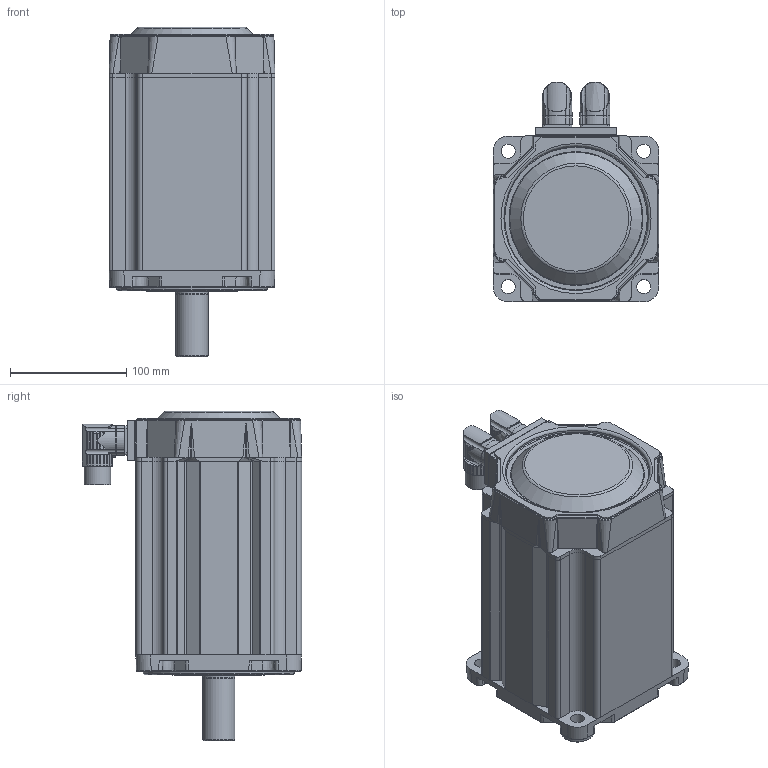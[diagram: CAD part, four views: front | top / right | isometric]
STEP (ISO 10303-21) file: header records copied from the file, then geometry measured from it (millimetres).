
FILE_DESCRIPTION((''),'2;1');
FILE_NAME('C:\CAD_work\Dummy_Modeling_Project_02-12-05\3D MODELS\MPP1424XXX_NPSN.stp','2005-12-20T17:26:09',('jevans'),(''),'Autodesk Inventor 10','Autodesk Inventor 10','');
FILE_SCHEMA(('AUTOMOTIVE_DESIGN { 1 0 10303 214 1 1 1 1 }'));
Length unit declared in the file: inch
Products named in the file (1): MPP142_MOTOR
Bounding box: 142.75 x 188.8 x 283.72 mm (x, y, z)
Volume: 3888890.9 mm3; surface area: 234159.4 mm2
Topology: 3 solids, 3 shells, 905 faces, 2284 edges, 1422 vertices
Faces by surface type: bspline 336, cylinder 287, plane 224, cone 35, torus 21, sphere 2
Full cylindrical faces by diameter (mm): 1.143 x17, 2.032 x6, 2.794 x2, 19.05 x1, 19.685 x1, 22.86 x1, 27.645 x1, 28.001 x1, 29.921 x1, 29.997 x1, 36.83 x1, 55.88 x1, 66.04 x1, 71.526 x1, 72.009 x1, 72.034 x2, 76.352 x1, 80.95 x1, 124.46 x1, 129.997 x1
Entity records: 37268 total; most frequent: CARTESIAN_POINT 17804, ORIENTED_EDGE 4334, DIRECTION 3475, EDGE_CURVE 2167, VERTEX_POINT 1398, AXIS2_PLACEMENT_3D 1344, EDGE_LOOP 1053, FACE_OUTER_BOUND 905
